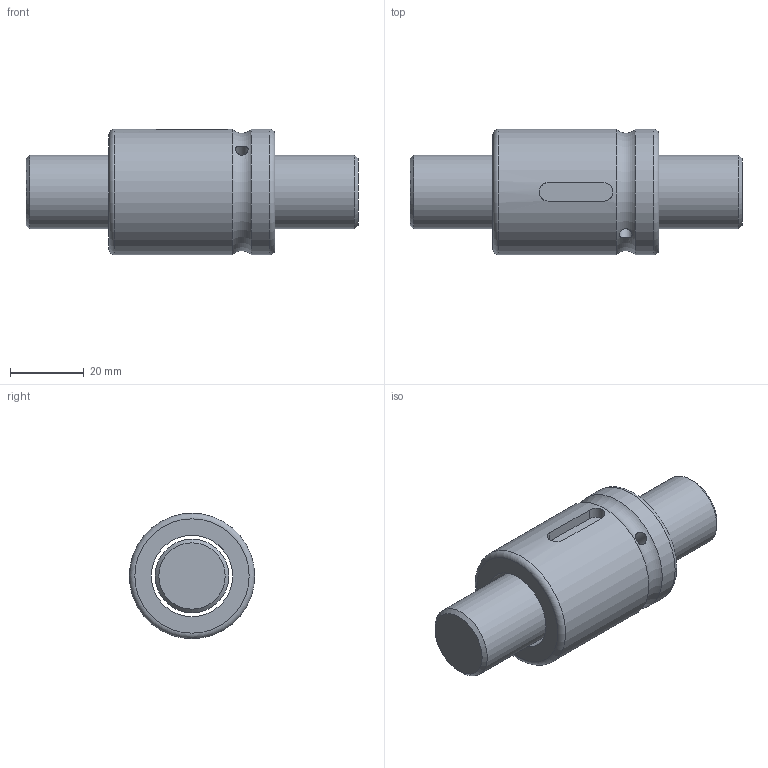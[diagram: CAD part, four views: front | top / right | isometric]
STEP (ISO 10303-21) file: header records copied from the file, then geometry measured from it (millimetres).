
FILE_DESCRIPTION (( 'STEP AP203' ), '1' );
FILE_NAME ('SCNI2005.STEP', '2023-08-16T08:16:53', ( '' ), ( '' ), 'SwSTEP 2.0', 'SolidWorks 2022', '' );
FILE_SCHEMA (( 'CONFIG_CONTROL_DESIGN' ));
Length unit declared in the file: millimetre
Products named in the file (1): SCNI2005
Bounding box: 90 x 34 x 34 mm (x, y, z)
Volume: 51145 mm3; surface area: 15242.6 mm2
Topology: 2 solids, 2 shells, 19 faces, 37 edges, 23 vertices
Faces by surface type: cylinder 7, plane 7, torus 3, cone 2
Full cylindrical faces by diameter (mm): 3.5 x1, 20 x1, 22 x1, 34 x2
Entity records: 753 total; most frequent: CARTESIAN_POINT 320, DIRECTION 76, ORIENTED_EDGE 52, EDGE_LOOP 34, AXIS2_PLACEMENT_3D 34, FACE_OUTER_BOUND 27, EDGE_CURVE 26, VERTEX_POINT 22
